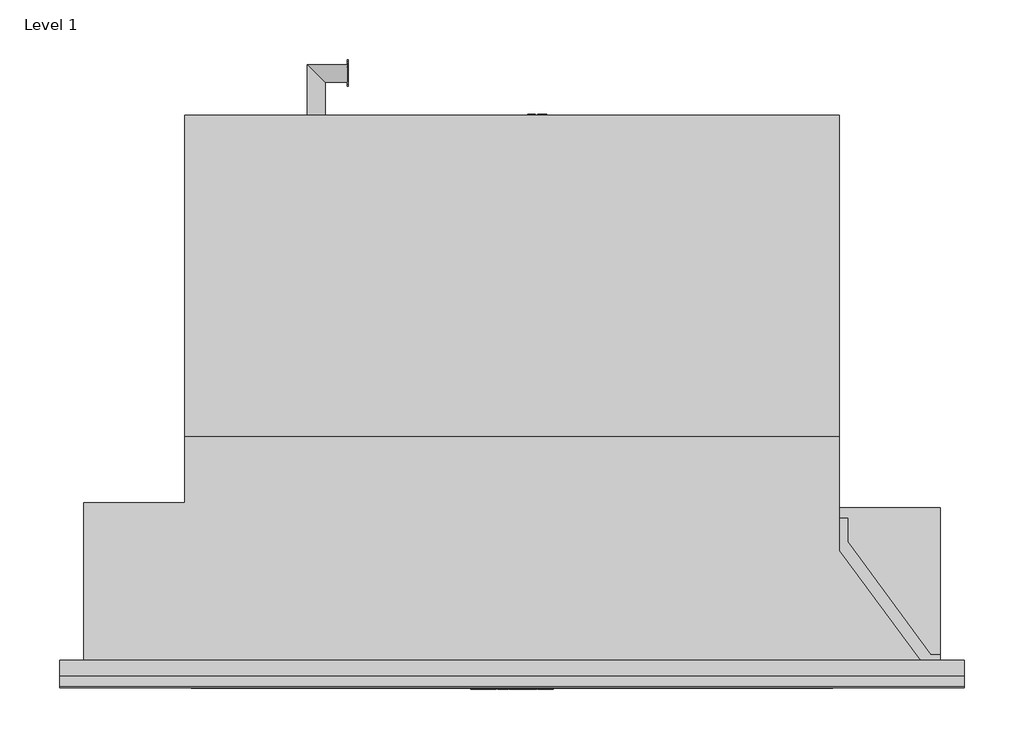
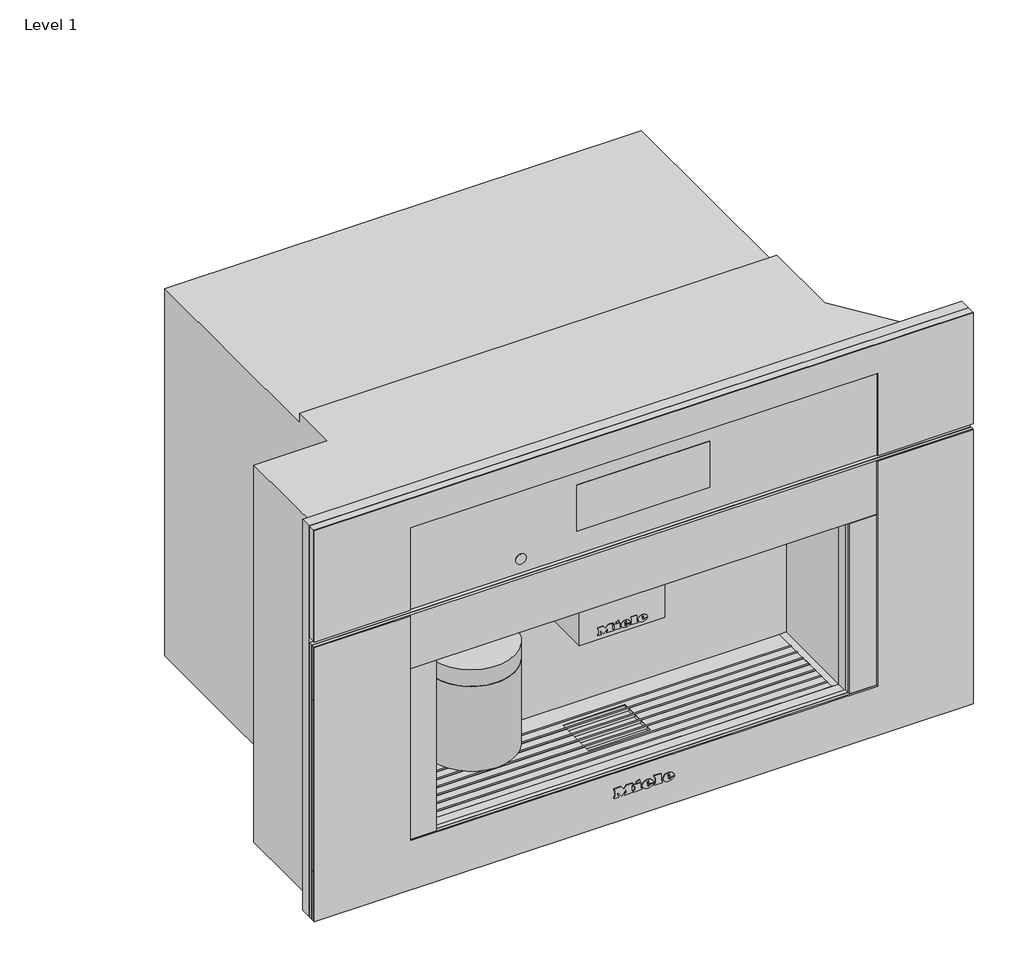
# One storey: 1 proxy.
"""IFC4 building model written with IfcOpenShell, lengths in millimetres."""

from ifc_helpers import new_model, si_unit, origin, place, context, project, spatial, transform, mapped, element, save
from components import specialty_equipment_463541c9

model = new_model("IFC4")

# Units and contexts
model_context = context("Model", 3, world=origin())
ifc_project = project(units=[si_unit("LENGTHUNIT", "METRE", prefix="MILLI")], contexts=[model_context])

# Site, building, storey
site = spatial("IfcSite", under=ifc_project)
building = spatial("IfcBuilding", under=site)
storey = spatial("IfcBuildingStorey", under=building, Name="Level 1", Elevation=0.0)

# Proxy
placement = place(None, origin())
specialty_equipment_shape = specialty_equipment_463541c9(model_context)
element("IfcBuildingElementProxy", 1, Name="11733870_CDN_CVA7775_EDST-CLST : 29777540_CDN_11733870_CVA7775_EDST-CLST", ObjectType="11733870_CDN_CVA7775_EDST-CLST : 29777540_CDN_11733870_CVA7775_EDST-CLST", at=placement, inside=storey, context=model_context, shape_type="MappedRepresentation", body=[
    mapped(specialty_equipment_shape, transform((0.0, 0.0, 0.0), x_axis=(1.0, 0.0, 0.0), y_axis=(0.0, 1.0, 0.0), z_axis=(0.0, 0.0, 1.0))),
])

save(model, "model.ifc")
